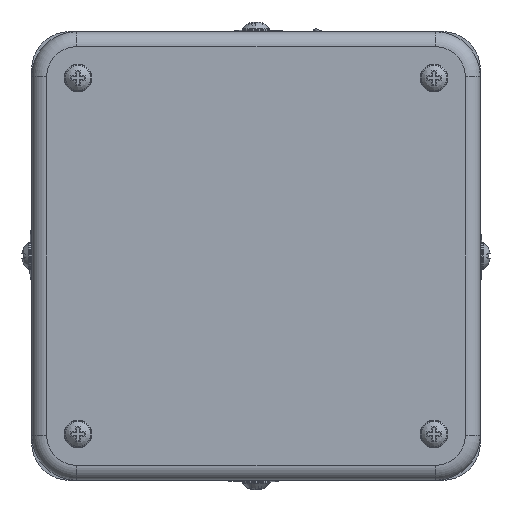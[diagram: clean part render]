
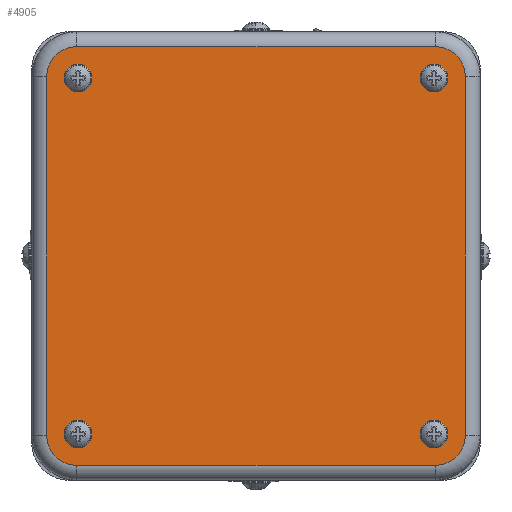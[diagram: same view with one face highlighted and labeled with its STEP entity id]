
A CAD part, left-side view. The second image highlights one B-rep face of the part: STEP entity #4905.
In plain terms, the highlighted planar face has unit normal (-1, 0, 0).
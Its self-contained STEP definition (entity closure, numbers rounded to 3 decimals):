
#228=FACE_BOUND('',#946,.T.);
#229=FACE_BOUND('',#947,.T.);
#230=FACE_BOUND('',#948,.T.);
#231=FACE_BOUND('',#949,.T.);
#395=PLANE('',#5327);
#636=FACE_OUTER_BOUND('',#945,.T.);
#945=EDGE_LOOP('',(#4063,#4064,#4065,#4066,#4067,#4068,#4069,#4070));
#946=EDGE_LOOP('',(#4071));
#947=EDGE_LOOP('',(#4072));
#948=EDGE_LOOP('',(#4073));
#949=EDGE_LOOP('',(#4074));
#1320=LINE('',#8462,#1689);
#1321=LINE('',#8466,#1690);
#1322=LINE('',#8470,#1691);
#1323=LINE('',#8473,#1692);
#1689=VECTOR('',#6334,72.);
#1690=VECTOR('',#6337,72.);
#1691=VECTOR('',#6340,72.);
#1692=VECTOR('',#6343,72.);
#1890=CIRCLE('',#5169,2.8);
#1901=CIRCLE('',#5198,2.8);
#1946=CIRCLE('',#5328,6.);
#1947=CIRCLE('',#5329,6.);
#1948=CIRCLE('',#5330,6.);
#1949=CIRCLE('',#5331,6.);
#1950=CIRCLE('',#5332,2.8);
#1951=CIRCLE('',#5333,2.8);
#2131=VERTEX_POINT('',#7231);
#2165=VERTEX_POINT('',#7436);
#2341=VERTEX_POINT('',#8458);
#2342=VERTEX_POINT('',#8459);
#2343=VERTEX_POINT('',#8461);
#2344=VERTEX_POINT('',#8463);
#2345=VERTEX_POINT('',#8465);
#2346=VERTEX_POINT('',#8467);
#2347=VERTEX_POINT('',#8469);
#2348=VERTEX_POINT('',#8471);
#2349=VERTEX_POINT('',#8474);
#2350=VERTEX_POINT('',#8476);
#2640=EDGE_CURVE('',#2131,#2131,#1890,.T.);
#2691=EDGE_CURVE('',#2165,#2165,#1901,.T.);
#2948=EDGE_CURVE('',#2341,#2342,#1946,.T.);
#2949=EDGE_CURVE('',#2343,#2341,#1320,.T.);
#2950=EDGE_CURVE('',#2344,#2343,#1947,.T.);
#2951=EDGE_CURVE('',#2345,#2344,#1321,.T.);
#2952=EDGE_CURVE('',#2346,#2345,#1948,.T.);
#2953=EDGE_CURVE('',#2347,#2346,#1322,.T.);
#2954=EDGE_CURVE('',#2348,#2347,#1949,.T.);
#2955=EDGE_CURVE('',#2342,#2348,#1323,.T.);
#2956=EDGE_CURVE('',#2349,#2349,#1950,.T.);
#2957=EDGE_CURVE('',#2350,#2350,#1951,.T.);
#4063=ORIENTED_EDGE('',*,*,#2948,.F.);
#4064=ORIENTED_EDGE('',*,*,#2949,.F.);
#4065=ORIENTED_EDGE('',*,*,#2950,.F.);
#4066=ORIENTED_EDGE('',*,*,#2951,.F.);
#4067=ORIENTED_EDGE('',*,*,#2952,.F.);
#4068=ORIENTED_EDGE('',*,*,#2953,.F.);
#4069=ORIENTED_EDGE('',*,*,#2954,.F.);
#4070=ORIENTED_EDGE('',*,*,#2955,.F.);
#4071=ORIENTED_EDGE('',*,*,#2956,.T.);
#4072=ORIENTED_EDGE('',*,*,#2640,.T.);
#4073=ORIENTED_EDGE('',*,*,#2957,.T.);
#4074=ORIENTED_EDGE('',*,*,#2691,.T.);
#4905=ADVANCED_FACE('',(#636,#228,#229,#230,#231),#395,.F.);
#5169=AXIS2_PLACEMENT_3D('',#7232,#5846,#5847);
#5198=AXIS2_PLACEMENT_3D('',#7437,#5930,#5931);
#5327=AXIS2_PLACEMENT_3D('',#8457,#6330,#6331);
#5328=AXIS2_PLACEMENT_3D('',#8460,#6332,#6333);
#5329=AXIS2_PLACEMENT_3D('',#8464,#6335,#6336);
#5330=AXIS2_PLACEMENT_3D('',#8468,#6338,#6339);
#5331=AXIS2_PLACEMENT_3D('',#8472,#6341,#6342);
#5332=AXIS2_PLACEMENT_3D('',#8475,#6344,#6345);
#5333=AXIS2_PLACEMENT_3D('',#8477,#6346,#6347);
#5846=DIRECTION('center_axis',(1.,0.,0.));
#5847=DIRECTION('ref_axis',(0.,-1.,0.));
#5930=DIRECTION('center_axis',(1.,0.,0.));
#5931=DIRECTION('ref_axis',(0.,-1.,0.));
#6330=DIRECTION('center_axis',(1.,0.,0.));
#6331=DIRECTION('ref_axis',(0.,1.,0.));
#6332=DIRECTION('center_axis',(1.,0.,0.));
#6333=DIRECTION('ref_axis',(0.,0.707,-0.707));
#6334=DIRECTION('',(0.,1.,0.));
#6335=DIRECTION('center_axis',(1.,0.,0.));
#6336=DIRECTION('ref_axis',(0.,-0.707,-0.707));
#6337=DIRECTION('',(0.,0.,-1.));
#6338=DIRECTION('center_axis',(1.,0.,0.));
#6339=DIRECTION('ref_axis',(0.,-0.707,0.707));
#6340=DIRECTION('',(0.,-1.,0.));
#6341=DIRECTION('center_axis',(1.,0.,0.));
#6342=DIRECTION('ref_axis',(0.,0.707,0.707));
#6343=DIRECTION('',(0.,0.,1.));
#6344=DIRECTION('center_axis',(1.,0.,0.));
#6345=DIRECTION('ref_axis',(0.,-1.,0.));
#6346=DIRECTION('center_axis',(1.,0.,0.));
#6347=DIRECTION('ref_axis',(0.,-1.,0.));
#7231=CARTESIAN_POINT('',(-123.672,-31.097,-23.376));
#7232=CARTESIAN_POINT('Origin',(-123.672,-33.897,-23.376));
#7436=CARTESIAN_POINT('',(-123.672,40.32,-23.376));
#7437=CARTESIAN_POINT('Origin',(-123.672,37.52,-23.376));
#8457=CARTESIAN_POINT('Origin',(-123.672,8.839,5.306));
#8458=CARTESIAN_POINT('',(-123.672,37.811,-29.667));
#8459=CARTESIAN_POINT('',(-123.672,43.811,-23.667));
#8460=CARTESIAN_POINT('Origin',(-123.672,37.811,-23.667));
#8461=CARTESIAN_POINT('',(-123.672,-34.189,-29.667));
#8462=CARTESIAN_POINT('',(-123.672,-34.189,-29.667));
#8463=CARTESIAN_POINT('',(-123.672,-40.189,-23.667));
#8464=CARTESIAN_POINT('Origin',(-123.672,-34.189,-23.667));
#8465=CARTESIAN_POINT('',(-123.672,-40.189,48.333));
#8466=CARTESIAN_POINT('',(-123.672,-40.189,48.333));
#8467=CARTESIAN_POINT('',(-123.672,-34.189,54.333));
#8468=CARTESIAN_POINT('Origin',(-123.672,-34.189,48.333));
#8469=CARTESIAN_POINT('',(-123.672,37.811,54.333));
#8470=CARTESIAN_POINT('',(-123.672,37.811,54.333));
#8471=CARTESIAN_POINT('',(-123.672,43.811,48.333));
#8472=CARTESIAN_POINT('Origin',(-123.672,37.811,48.333));
#8473=CARTESIAN_POINT('',(-123.672,43.811,-23.667));
#8474=CARTESIAN_POINT('',(-123.672,-31.097,48.042));
#8475=CARTESIAN_POINT('Origin',(-123.672,-33.897,48.042));
#8476=CARTESIAN_POINT('',(-123.672,40.32,48.042));
#8477=CARTESIAN_POINT('Origin',(-123.672,37.52,48.042));
